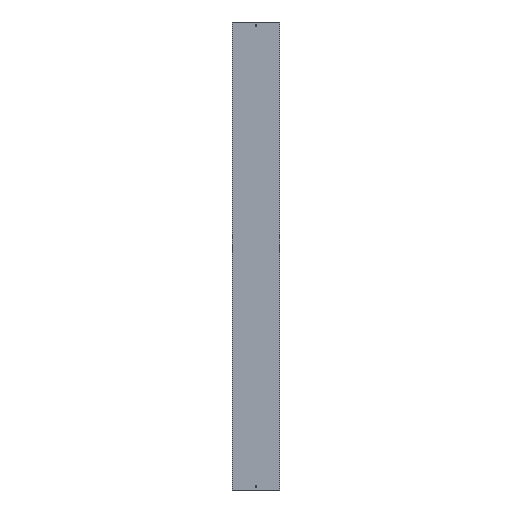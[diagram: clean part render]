
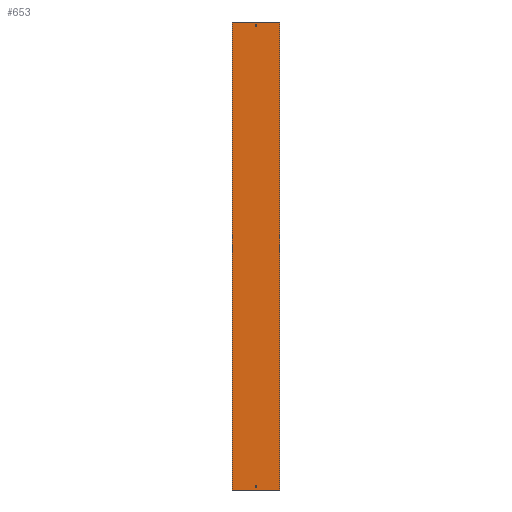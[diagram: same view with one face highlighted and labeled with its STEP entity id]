
A CAD part, front view. The second image highlights one B-rep face of the part: STEP entity #653.
In plain terms, the highlighted planar face has unit normal (0, -1, 0).
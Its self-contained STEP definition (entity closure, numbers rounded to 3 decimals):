
#3 = DIRECTION ( 'NONE',  ( 0., 0., 1. ) ) ;
#103 = EDGE_CURVE ( 'NONE', #167, #1228, #1179, .T. ) ;
#109 = CARTESIAN_POINT ( 'NONE',  ( 3.25, 0., 988. ) ) ;
#129 = VECTOR ( 'NONE', #827, 1000. ) ;
#135 = DIRECTION ( 'NONE',  ( -1., 0., 0. ) ) ;
#163 = CARTESIAN_POINT ( 'NONE',  ( -3.25, 0., -979. ) ) ;
#167 = VERTEX_POINT ( 'NONE', #692 ) ;
#171 = CARTESIAN_POINT ( 'NONE',  ( 3.25, 0., -988. ) ) ;
#199 = CARTESIAN_POINT ( 'NONE',  ( 102., 0., -1000. ) ) ;
#216 = LINE ( 'NONE', #1121, #1215 ) ;
#217 = DIRECTION ( 'NONE',  ( 0., 1., 0. ) ) ;
#231 = EDGE_LOOP ( 'NONE', ( #913, #1368, #1330, #889 ) ) ;
#261 = ORIENTED_EDGE ( 'NONE', *, *, #369, .F. ) ;
#265 = VECTOR ( 'NONE', #307, 1000. ) ;
#275 = DIRECTION ( 'NONE',  ( 0., 0., -1. ) ) ;
#288 = CARTESIAN_POINT ( 'NONE',  ( 3.25, 0., 988. ) ) ;
#297 = CARTESIAN_POINT ( 'NONE',  ( -102., 0., 1000. ) ) ;
#307 = DIRECTION ( 'NONE',  ( 0., 0., -1. ) ) ;
#315 = LINE ( 'NONE', #288, #797 ) ;
#318 = CARTESIAN_POINT ( 'NONE',  ( 3.25, 0., -979. ) ) ;
#336 = PLANE ( 'NONE',  #1454 ) ;
#340 = CARTESIAN_POINT ( 'NONE',  ( -3.25, 0., -988. ) ) ;
#344 = DIRECTION ( 'NONE',  ( -1., 0., 0. ) ) ;
#369 = EDGE_CURVE ( 'NONE', #1065, #1517, #761, .T. ) ;
#388 = EDGE_CURVE ( 'NONE', #979, #1553, #1291, .T. ) ;
#390 = CARTESIAN_POINT ( 'NONE',  ( -3.25, 0., -988. ) ) ;
#395 = CARTESIAN_POINT ( 'NONE',  ( -3.25, 0., 988. ) ) ;
#413 = LINE ( 'NONE', #821, #265 ) ;
#427 = VECTOR ( 'NONE', #803, 1000. ) ;
#475 = VERTEX_POINT ( 'NONE', #171 ) ;
#493 = EDGE_CURVE ( 'NONE', #1037, #167, #910, .T. ) ;
#523 = CARTESIAN_POINT ( 'NONE',  ( -3.25, 0., 979. ) ) ;
#540 = CARTESIAN_POINT ( 'NONE',  ( 102., 0., 1000. ) ) ;
#557 = VECTOR ( 'NONE', #275, 1000. ) ;
#578 = VERTEX_POINT ( 'NONE', #199 ) ;
#583 = VECTOR ( 'NONE', #3, 1000. ) ;
#584 = CARTESIAN_POINT ( 'NONE',  ( -3.25, 0., -979. ) ) ;
#585 = EDGE_CURVE ( 'NONE', #1517, #578, #1094, .T. ) ;
#631 = VERTEX_POINT ( 'NONE', #318 ) ;
#633 = EDGE_CURVE ( 'NONE', #1553, #631, #1470, .T. ) ;
#642 = EDGE_CURVE ( 'NONE', #475, #979, #965, .T. ) ;
#643 = ORIENTED_EDGE ( 'NONE', *, *, #388, .T. ) ;
#649 = CARTESIAN_POINT ( 'NONE',  ( -3.25, 0., 988. ) ) ;
#652 = LINE ( 'NONE', #395, #771 ) ;
#653 = ADVANCED_FACE ( 'NONE', ( #1105, #973, #1498 ), #336, .F. ) ;
#692 = CARTESIAN_POINT ( 'NONE',  ( -3.25, 0., 979. ) ) ;
#699 = DIRECTION ( 'NONE',  ( 0., 0., -1. ) ) ;
#761 = LINE ( 'NONE', #1284, #960 ) ;
#764 = VERTEX_POINT ( 'NONE', #109 ) ;
#771 = VECTOR ( 'NONE', #135, 1000. ) ;
#777 = EDGE_CURVE ( 'NONE', #764, #1037, #652, .T. ) ;
#783 = CARTESIAN_POINT ( 'NONE',  ( -3.25, 0., 988. ) ) ;
#796 = DIRECTION ( 'NONE',  ( 0., 0., 1. ) ) ;
#797 = VECTOR ( 'NONE', #796, 1000. ) ;
#803 = DIRECTION ( 'NONE',  ( 0., 0., -1. ) ) ;
#805 = CARTESIAN_POINT ( 'NONE',  ( -102., 0., -1000. ) ) ;
#819 = CARTESIAN_POINT ( 'NONE',  ( 3.25, 0., 979. ) ) ;
#821 = CARTESIAN_POINT ( 'NONE',  ( 3.25, 0., -988. ) ) ;
#827 = DIRECTION ( 'NONE',  ( 1., 0., 0. ) ) ;
#828 = EDGE_CURVE ( 'NONE', #631, #475, #413, .T. ) ;
#844 = CARTESIAN_POINT ( 'NONE',  ( -102., 0., 1000. ) ) ;
#889 = ORIENTED_EDGE ( 'NONE', *, *, #911, .F. ) ;
#910 = LINE ( 'NONE', #783, #557 ) ;
#911 = EDGE_CURVE ( 'NONE', #1228, #764, #315, .T. ) ;
#913 = ORIENTED_EDGE ( 'NONE', *, *, #103, .F. ) ;
#923 = VERTEX_POINT ( 'NONE', #805 ) ;
#960 = VECTOR ( 'NONE', #1676, 1000. ) ;
#965 = LINE ( 'NONE', #1225, #1180 ) ;
#973 = FACE_BOUND ( 'NONE', #231, .T. ) ;
#979 = VERTEX_POINT ( 'NONE', #340 ) ;
#1007 = ORIENTED_EDGE ( 'NONE', *, *, #828, .T. ) ;
#1020 = VECTOR ( 'NONE', #699, 1000. ) ;
#1037 = VERTEX_POINT ( 'NONE', #649 ) ;
#1040 = EDGE_LOOP ( 'NONE', ( #1501, #1063, #261, #1143 ) ) ;
#1063 = ORIENTED_EDGE ( 'NONE', *, *, #585, .F. ) ;
#1065 = VERTEX_POINT ( 'NONE', #1172 ) ;
#1094 = LINE ( 'NONE', #1382, #1020 ) ;
#1100 = ORIENTED_EDGE ( 'NONE', *, *, #633, .T. ) ;
#1105 = FACE_OUTER_BOUND ( 'NONE', #1040, .T. ) ;
#1121 = CARTESIAN_POINT ( 'NONE',  ( -102., 0., -1000. ) ) ;
#1143 = ORIENTED_EDGE ( 'NONE', *, *, #1276, .T. ) ;
#1172 = CARTESIAN_POINT ( 'NONE',  ( -102., 0., 1000. ) ) ;
#1179 = LINE ( 'NONE', #523, #1376 ) ;
#1180 = VECTOR ( 'NONE', #344, 1000. ) ;
#1205 = DIRECTION ( 'NONE',  ( -1., 0., 0. ) ) ;
#1215 = VECTOR ( 'NONE', #1632, 1000. ) ;
#1225 = CARTESIAN_POINT ( 'NONE',  ( -3.25, 0., -988. ) ) ;
#1228 = VERTEX_POINT ( 'NONE', #819 ) ;
#1276 = EDGE_CURVE ( 'NONE', #1065, #923, #1455, .T. ) ;
#1284 = CARTESIAN_POINT ( 'NONE',  ( -102., 0., 1000. ) ) ;
#1291 = LINE ( 'NONE', #390, #583 ) ;
#1325 = EDGE_LOOP ( 'NONE', ( #643, #1100, #1007, #1640 ) ) ;
#1330 = ORIENTED_EDGE ( 'NONE', *, *, #777, .F. ) ;
#1368 = ORIENTED_EDGE ( 'NONE', *, *, #493, .F. ) ;
#1376 = VECTOR ( 'NONE', #1574, 1000. ) ;
#1382 = CARTESIAN_POINT ( 'NONE',  ( 102., 0., 1000. ) ) ;
#1454 = AXIS2_PLACEMENT_3D ( 'NONE', #844, #217, #1205 ) ;
#1455 = LINE ( 'NONE', #297, #427 ) ;
#1470 = LINE ( 'NONE', #584, #129 ) ;
#1498 = FACE_BOUND ( 'NONE', #1325, .T. ) ;
#1501 = ORIENTED_EDGE ( 'NONE', *, *, #1636, .T. ) ;
#1517 = VERTEX_POINT ( 'NONE', #540 ) ;
#1553 = VERTEX_POINT ( 'NONE', #163 ) ;
#1574 = DIRECTION ( 'NONE',  ( 1., 0., 0. ) ) ;
#1632 = DIRECTION ( 'NONE',  ( 1., 0., 0. ) ) ;
#1636 = EDGE_CURVE ( 'NONE', #923, #578, #216, .T. ) ;
#1640 = ORIENTED_EDGE ( 'NONE', *, *, #642, .T. ) ;
#1676 = DIRECTION ( 'NONE',  ( 1., 0., 0. ) ) ;
